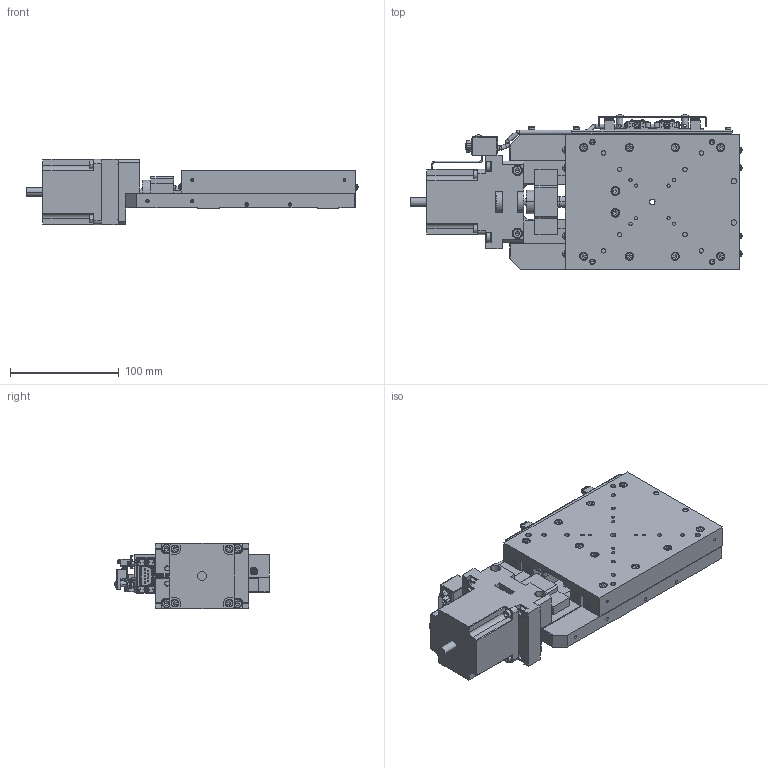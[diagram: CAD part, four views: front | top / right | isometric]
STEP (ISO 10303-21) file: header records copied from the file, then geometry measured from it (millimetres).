
FILE_DESCRIPTION( (''), '2;1');
FILE_NAME ('MVXA16A-R101-R.stp','2022-09-21T17:50:00',(''),(''),'spGate 17.5.5','','');
FILE_SCHEMA (('AUTOMOTIVE_DESIGN'));
Length unit declared in the file: millimetre
Products named in the file (3): Assembly; MVXA16A-R101-R-prt0; MVXA16A-R101-R-prt1
Assembly tree (2 placements, depth 2):
  Assembly
    MVXA16A-R101-R-prt0
    MVXA16A-R101-R-prt1
Bounding box: 305.29 x 142.39 x 60 mm (x, y, z)
Volume: 959544.3 mm3; surface area: 207209.9 mm2
Topology: 2 solids, 4 shells, 3028 faces, 7432 edges, 4564 vertices
Faces by surface type: plane 1670, cylinder 830, bspline 458, sphere 70
Entity records: 150543 total; most frequent: CARTESIAN_POINT 22574, ORIENTED_EDGE 14596, DIRECTION 13861, COLOUR_RGB 10328, PRESENTATION_STYLE_ASSIGNMENT 10328, STYLED_ITEM 10328, EDGE_CURVE 7298, DRAUGHTING_PRE_DEFINED_CURVE_FONT 7298
